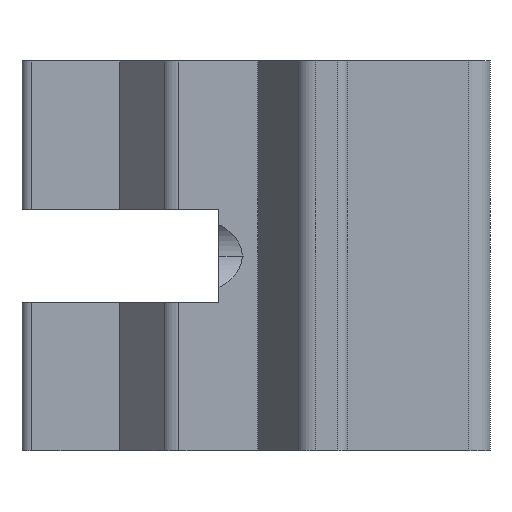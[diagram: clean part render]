
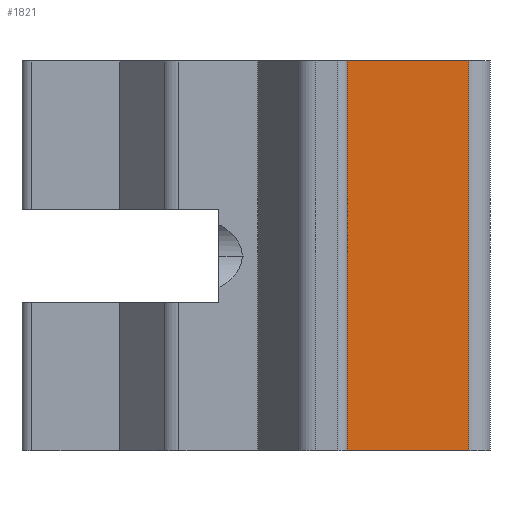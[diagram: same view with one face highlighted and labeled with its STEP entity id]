
A CAD part, front view. The second image highlights one B-rep face of the part: STEP entity #1821.
In plain terms, the highlighted planar face has unit normal (0, -1, 0).
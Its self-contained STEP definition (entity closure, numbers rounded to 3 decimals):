
#7 = EDGE_CURVE ( 'NONE', #1115, #1675, #1370, .T. ) ;
#52 = DIRECTION ( 'NONE',  ( 0., 0., -1. ) ) ;
#125 = ORIENTED_EDGE ( 'NONE', *, *, #598, .T. ) ;
#214 = CARTESIAN_POINT ( 'NONE',  ( 10.9, -2., 10. ) ) ;
#307 = LINE ( 'NONE', #329, #678 ) ;
#329 = CARTESIAN_POINT ( 'NONE',  ( 12., -2., -10. ) ) ;
#585 = VECTOR ( 'NONE', #977, 1000. ) ;
#586 = CARTESIAN_POINT ( 'NONE',  ( 3.2, -2., 10. ) ) ;
#598 = EDGE_CURVE ( 'NONE', #1611, #1628, #307, .T. ) ;
#606 = EDGE_LOOP ( 'NONE', ( #125, #1057, #811, #1625 ) ) ;
#678 = VECTOR ( 'NONE', #976, 1000. ) ;
#679 = VECTOR ( 'NONE', #52, 1000. ) ;
#701 = CARTESIAN_POINT ( 'NONE',  ( 3.2, -2., -10. ) ) ;
#800 = VECTOR ( 'NONE', #1465, 1000. ) ;
#811 = ORIENTED_EDGE ( 'NONE', *, *, #7, .F. ) ;
#825 = FACE_OUTER_BOUND ( 'NONE', #606, .T. ) ;
#976 = DIRECTION ( 'NONE',  ( 1., 0., 0. ) ) ;
#977 = DIRECTION ( 'NONE',  ( 0., 0., 1. ) ) ;
#985 = AXIS2_PLACEMENT_3D ( 'NONE', #1792, #1735, #1738 ) ;
#1057 = ORIENTED_EDGE ( 'NONE', *, *, #1523, .T. ) ;
#1115 = VERTEX_POINT ( 'NONE', #1678 ) ;
#1259 = LINE ( 'NONE', #1612, #585 ) ;
#1285 = CARTESIAN_POINT ( 'NONE',  ( 10.9, -2., -10. ) ) ;
#1370 = LINE ( 'NONE', #1669, #800 ) ;
#1409 = LINE ( 'NONE', #586, #679 ) ;
#1465 = DIRECTION ( 'NONE',  ( 1., 0., 0. ) ) ;
#1523 = EDGE_CURVE ( 'NONE', #1628, #1675, #1259, .T. ) ;
#1611 = VERTEX_POINT ( 'NONE', #701 ) ;
#1612 = CARTESIAN_POINT ( 'NONE',  ( 10.9, -2., 10. ) ) ;
#1625 = ORIENTED_EDGE ( 'NONE', *, *, #1744, .T. ) ;
#1628 = VERTEX_POINT ( 'NONE', #1285 ) ;
#1669 = CARTESIAN_POINT ( 'NONE',  ( 12., -2., 10. ) ) ;
#1675 = VERTEX_POINT ( 'NONE', #214 ) ;
#1678 = CARTESIAN_POINT ( 'NONE',  ( 3.2, -2., 10. ) ) ;
#1735 = DIRECTION ( 'NONE',  ( 0., 1., 0. ) ) ;
#1738 = DIRECTION ( 'NONE',  ( -1., 0., 0. ) ) ;
#1744 = EDGE_CURVE ( 'NONE', #1115, #1611, #1409, .T. ) ;
#1792 = CARTESIAN_POINT ( 'NONE',  ( 12., -2., 10. ) ) ;
#1813 = PLANE ( 'NONE',  #985 ) ;
#1821 = ADVANCED_FACE ( 'NONE', ( #825 ), #1813, .F. ) ;
